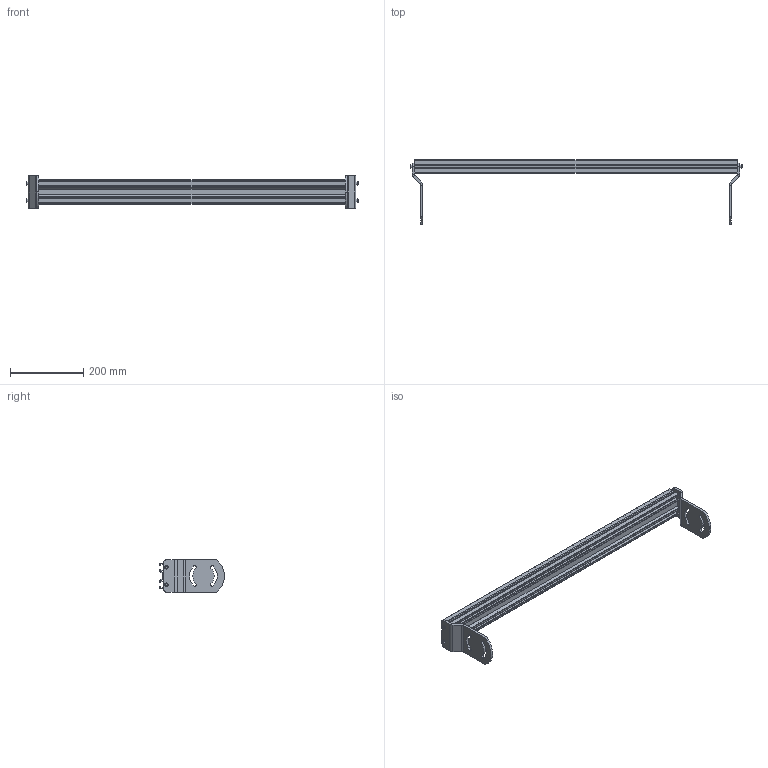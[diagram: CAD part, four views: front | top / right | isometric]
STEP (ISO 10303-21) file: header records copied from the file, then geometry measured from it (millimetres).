
FILE_DESCRIPTION((''),'2;1');
FILE_NAME('39MCM32-5_ASM','2023-03-01T',('jenni.wallner'),(''),'PRO/ENGINEER BY PARAMETRIC TECHNOLOGY CORPORATION, 2012420','PRO/ENGINEER BY PARAMETRIC TECHNOLOGY CORPORATION, 2012420','');
FILE_SCHEMA(('CONFIG_CONTROL_DESIGN'));
Length unit declared in the file: inch
Products named in the file (5): 710210_03479; 300825M; 708180P; 39MCM32-5_ASM_ASM; 39MCM32-5_ASM
Assembly tree (8 placements, depth 3):
  39MCM32-5_ASM
    39MCM32-5_ASM_ASM
      710210_03479
      300825M  x2
      708180P  x4
Bounding box: 908.37 x 176.65 x 88.93 mm (x, y, z)
Volume: 803243.4 mm3; surface area: 589819.3 mm2
Topology: 7 solids, 7 shells, 256 faces, 702 edges, 468 vertices
Faces by surface type: plane 144, cylinder 92, cone 20
Entity records: 5052 total; most frequent: CARTESIAN_POINT 890, DIRECTION 863, ORIENTED_EDGE 836, EDGE_CURVE 418, VECTOR 301, LINE 301, AXIS2_PLACEMENT_3D 281, VERTEX_POINT 276
